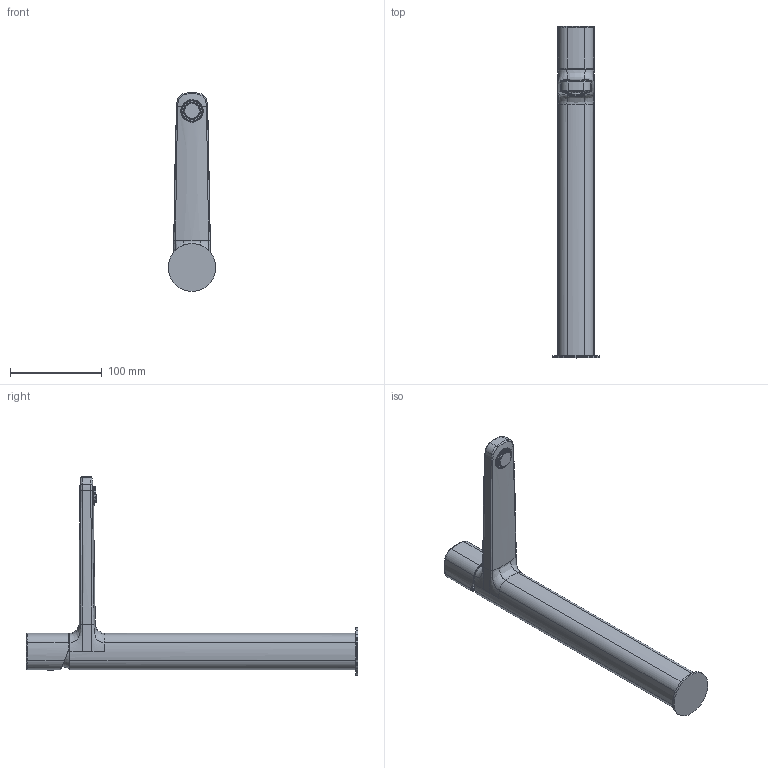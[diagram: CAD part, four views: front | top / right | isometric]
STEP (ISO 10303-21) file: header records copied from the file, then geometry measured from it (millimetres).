
FILE_DESCRIPTION((''),'2;1');
FILE_NAME('24000M006WF00000_SW0001','2022-08-02T14:16:32',('Elia'),(''),'CREO PARAMETRIC BY PTC INC, 2021424','CREO PARAMETRIC BY PTC INC, 2021424','');
FILE_SCHEMA(('AUTOMOTIVE_DESIGN { 1 0 10303 214 1 1 1 1 }'));
Length unit declared in the file: millimetre
Products named in the file (1): 24000M006WF00000_SW0001
Bounding box: 52 x 362.4 x 216.91 mm (x, y, z)
Volume: 566719.9 mm3; surface area: 78616.2 mm2
Topology: 2 solids, 2 shells, 327 faces, 828 edges, 500 vertices
Faces by surface type: cylinder 121, bspline 99, plane 58, torus 22, cone 17, sphere 8, extrusion 2
Entity records: 27551 total; most frequent: CARTESIAN_POINT 18283, ORIENTED_EDGE 1640, DIRECTION 1053, EDGE_CURVE 820, VERTEX_POINT 500, B_SPLINE_CURVE_WITH_KNOTS 421, AXIS2_PLACEMENT_3D 411, EDGE_LOOP 344
